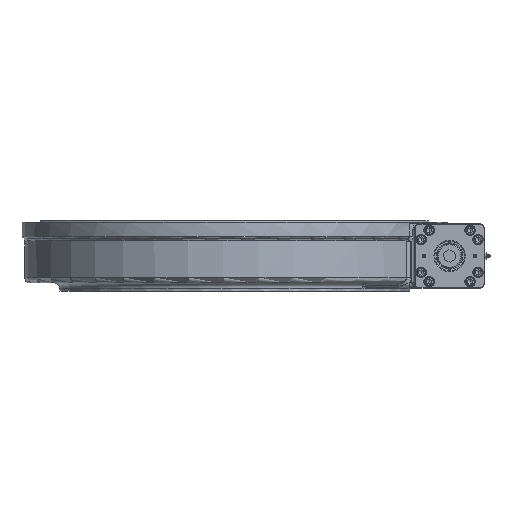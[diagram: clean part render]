
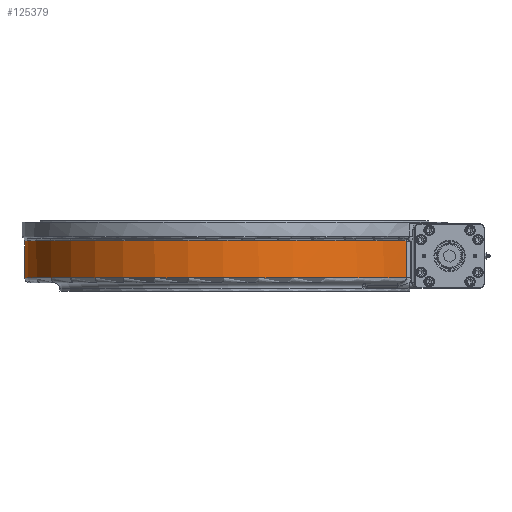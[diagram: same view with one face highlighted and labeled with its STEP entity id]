
A CAD part, left-side view. The second image highlights one B-rep face of the part: STEP entity #125379.
In plain terms, the highlighted cylindrical face has radius 390 mm (diameter 780 mm), a partial arc.
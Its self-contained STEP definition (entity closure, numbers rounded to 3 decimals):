
#1324 = DIRECTION ( 'NONE',  ( 0., 1., 0. ) ) ;
#3017 = CARTESIAN_POINT ( 'NONE',  ( 0., 789., 28. ) ) ;
#14506 = VECTOR ( 'NONE', #56302, 1000. ) ;
#18511 = DIRECTION ( 'NONE',  ( 0., -1., 0. ) ) ;
#23569 = ORIENTED_EDGE ( 'NONE', *, *, #27357, .T. ) ;
#27357 = EDGE_CURVE ( 'NONE', #179809, #40864, #56891, .T. ) ;
#36211 = VERTEX_POINT ( 'NONE', #134055 ) ;
#37179 = CARTESIAN_POINT ( 'NONE',  ( -225.182, 80.577, 27.98 ) ) ;
#40864 = VERTEX_POINT ( 'NONE', #48594 ) ;
#43686 = CIRCLE ( 'NONE', #101390, 390. ) ;
#44399 = ORIENTED_EDGE ( 'NONE', *, *, #148278, .T. ) ;
#48594 = CARTESIAN_POINT ( 'NONE',  ( 0., 789., -40. ) ) ;
#49800 = VECTOR ( 'NONE', #152244, 1000. ) ;
#52332 = ORIENTED_EDGE ( 'NONE', *, *, #128561, .T. ) ;
#56302 = DIRECTION ( 'NONE',  ( 0., 0., 1. ) ) ;
#56891 = LINE ( 'NONE', #169283, #49800 ) ;
#69271 = CARTESIAN_POINT ( 'NONE',  ( -224.478, 80.08, 27.826 ) ) ;
#74671 = CYLINDRICAL_SURFACE ( 'NONE', #190429, 390. ) ;
#78304 = AXIS2_PLACEMENT_3D ( 'NONE', #145495, #178575, #162558 ) ;
#83362 = CARTESIAN_POINT ( 'NONE',  ( -225.66, 80.916, 28. ) ) ;
#91078 = CIRCLE ( 'NONE', #78304, 390. ) ;
#99391 = VERTEX_POINT ( 'NONE', #104412 ) ;
#101376 = CARTESIAN_POINT ( 'NONE',  ( -224.25, 79.92, 27.729 ) ) ;
#101390 = AXIS2_PLACEMENT_3D ( 'NONE', #186184, #112807, #18511 ) ;
#101578 = B_SPLINE_CURVE_WITH_KNOTS ( 'NONE', 3,
 ( #101376, #69271, #145571, #37179, #114420, #83362 ),
 .UNSPECIFIED., .F., .F.,
 ( 4, 2, 4 ),
 ( 0., 0.001, 0.002 ),
 .UNSPECIFIED. ) ;
#104412 = CARTESIAN_POINT ( 'NONE',  ( -224.25, 79.92, 27.729 ) ) ;
#107280 = EDGE_CURVE ( 'NONE', #137702, #40864, #91078, .T. ) ;
#112807 = DIRECTION ( 'NONE',  ( 0., 0., -1. ) ) ;
#114420 = CARTESIAN_POINT ( 'NONE',  ( -225.42, 80.746, 28. ) ) ;
#125379 = ADVANCED_FACE ( 'NONE', ( #137864 ), #74671, .T. ) ;
#125707 = ORIENTED_EDGE ( 'NONE', *, *, #107280, .F. ) ;
#128561 = EDGE_CURVE ( 'NONE', #137702, #99391, #131589, .T. ) ;
#131589 = LINE ( 'NONE', #146660, #14506 ) ;
#134055 = CARTESIAN_POINT ( 'NONE',  ( -225.66, 80.916, 28. ) ) ;
#136872 = CARTESIAN_POINT ( 'NONE',  ( 0., 399., 0. ) ) ;
#137702 = VERTEX_POINT ( 'NONE', #171192 ) ;
#137864 = FACE_OUTER_BOUND ( 'NONE', #151537, .T. ) ;
#145495 = CARTESIAN_POINT ( 'NONE',  ( 0., 399., -40. ) ) ;
#145571 = CARTESIAN_POINT ( 'NONE',  ( -224.712, 80.245, 27.894 ) ) ;
#146660 = CARTESIAN_POINT ( 'NONE',  ( -224.25, 79.92, 0. ) ) ;
#148278 = EDGE_CURVE ( 'NONE', #99391, #36211, #101578, .T. ) ;
#151537 = EDGE_LOOP ( 'NONE', ( #194050, #23569, #125707, #52332, #44399 ) ) ;
#152244 = DIRECTION ( 'NONE',  ( 0., 0., -1. ) ) ;
#162558 = DIRECTION ( 'NONE',  ( 0., 1., 0. ) ) ;
#166038 = DIRECTION ( 'NONE',  ( 0., 0., -1. ) ) ;
#169283 = CARTESIAN_POINT ( 'NONE',  ( 0., 789., 0. ) ) ;
#171192 = CARTESIAN_POINT ( 'NONE',  ( -224.25, 79.92, -40. ) ) ;
#176918 = EDGE_CURVE ( 'NONE', #36211, #179809, #43686, .T. ) ;
#178575 = DIRECTION ( 'NONE',  ( 0., 0., -1. ) ) ;
#179809 = VERTEX_POINT ( 'NONE', #3017 ) ;
#186184 = CARTESIAN_POINT ( 'NONE',  ( 0., 399., 28. ) ) ;
#190429 = AXIS2_PLACEMENT_3D ( 'NONE', #136872, #166038, #1324 ) ;
#194050 = ORIENTED_EDGE ( 'NONE', *, *, #176918, .T. ) ;
